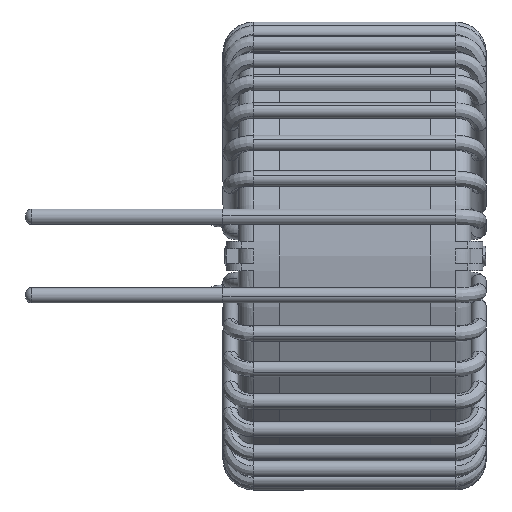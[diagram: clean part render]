
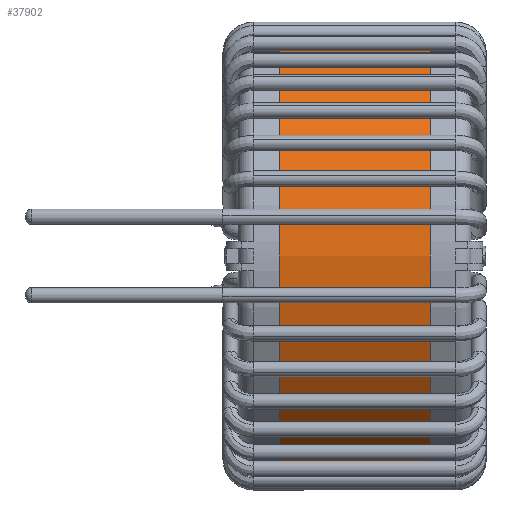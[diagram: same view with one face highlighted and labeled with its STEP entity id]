
A CAD part, left-side view. The second image highlights one B-rep face of the part: STEP entity #37902.
In plain terms, the highlighted cylindrical face has radius 14.6 mm (diameter 29.2 mm), a partial arc.
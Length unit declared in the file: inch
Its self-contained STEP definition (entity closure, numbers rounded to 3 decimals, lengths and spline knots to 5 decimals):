
#132 = EDGE_CURVE ( 'NONE', #29743, #36878, #8195, .T. ) ;
#486 = FACE_OUTER_BOUND ( 'NONE', #32792, .T. ) ;
#2020 = ORIENTED_EDGE ( 'NONE', *, *, #24839, .F. ) ;
#2138 = DIRECTION ( 'NONE',  ( 0., 0., 1. ) ) ;
#2377 = DIRECTION ( 'NONE',  ( 0., 0., -1. ) ) ;
#4480 = DIRECTION ( 'NONE',  ( 0., -1., 0. ) ) ;
#5523 = VERTEX_POINT ( 'NONE', #21327 ) ;
#6594 = EDGE_CURVE ( 'NONE', #36878, #19518, #22937, .T. ) ;
#6711 = CYLINDRICAL_SURFACE ( 'NONE', #10708, 0.5748 ) ;
#8195 = LINE ( 'NONE', #30091, #13337 ) ;
#9537 = CARTESIAN_POINT ( 'NONE',  ( 0., -0.19685, -0.5748 ) ) ;
#10708 = AXIS2_PLACEMENT_3D ( 'NONE', #31117, #36083, #2377 ) ;
#11805 = DIRECTION ( 'NONE',  ( 0., -1., 0. ) ) ;
#11916 = CARTESIAN_POINT ( 'NONE',  ( 0., -0.19685, 0. ) ) ;
#13008 = VECTOR ( 'NONE', #11805, 39.37008 ) ;
#13337 = VECTOR ( 'NONE', #4480, 39.37008 ) ;
#17053 = ORIENTED_EDGE ( 'NONE', *, *, #6594, .T. ) ;
#18784 = ORIENTED_EDGE ( 'NONE', *, *, #132, .T. ) ;
#19518 = VERTEX_POINT ( 'NONE', #23541 ) ;
#20542 = EDGE_CURVE ( 'NONE', #29743, #5523, #32661, .T. ) ;
#21327 = CARTESIAN_POINT ( 'NONE',  ( 0., 0.19685, 0.5748 ) ) ;
#22937 = CIRCLE ( 'NONE', #32240, 0.5748 ) ;
#23541 = CARTESIAN_POINT ( 'NONE',  ( 0., -0.19685, 0.5748 ) ) ;
#24016 = DIRECTION ( 'NONE',  ( 0., 1., 0. ) ) ;
#24194 = ORIENTED_EDGE ( 'NONE', *, *, #20542, .F. ) ;
#24839 = EDGE_CURVE ( 'NONE', #5523, #19518, #35541, .T. ) ;
#25047 = DIRECTION ( 'NONE',  ( 0., 0., 1. ) ) ;
#28694 = CARTESIAN_POINT ( 'NONE',  ( 0., 0.19685, 0.5748 ) ) ;
#29743 = VERTEX_POINT ( 'NONE', #34538 ) ;
#30091 = CARTESIAN_POINT ( 'NONE',  ( 0., 0.19685, -0.5748 ) ) ;
#31117 = CARTESIAN_POINT ( 'NONE',  ( 0., 0.19685, 0. ) ) ;
#31968 = AXIS2_PLACEMENT_3D ( 'NONE', #32119, #24016, #2138 ) ;
#32119 = CARTESIAN_POINT ( 'NONE',  ( 0., 0.19685, 0. ) ) ;
#32240 = AXIS2_PLACEMENT_3D ( 'NONE', #11916, #33774, #25047 ) ;
#32661 = CIRCLE ( 'NONE', #31968, 0.5748 ) ;
#32792 = EDGE_LOOP ( 'NONE', ( #2020, #24194, #18784, #17053 ) ) ;
#33774 = DIRECTION ( 'NONE',  ( 0., 1., 0. ) ) ;
#34538 = CARTESIAN_POINT ( 'NONE',  ( 0., 0.19685, -0.5748 ) ) ;
#35541 = LINE ( 'NONE', #28694, #13008 ) ;
#36083 = DIRECTION ( 'NONE',  ( 0., -1., 0. ) ) ;
#36878 = VERTEX_POINT ( 'NONE', #9537 ) ;
#37902 = ADVANCED_FACE ( 'NONE', ( #486 ), #6711, .T. ) ;
